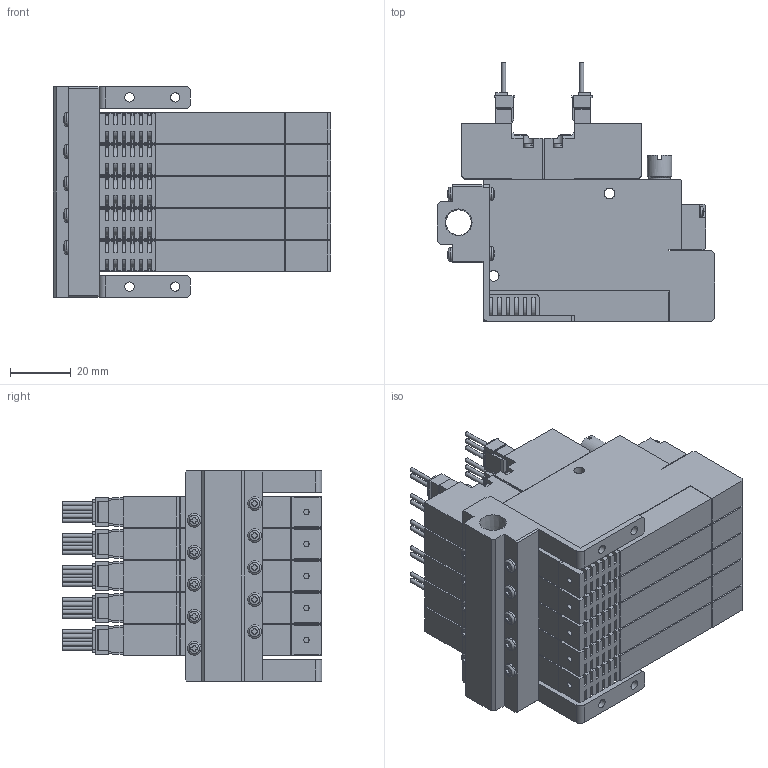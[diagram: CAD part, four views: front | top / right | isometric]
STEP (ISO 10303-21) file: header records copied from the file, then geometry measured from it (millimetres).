
FILE_DESCRIPTION(('STEP AP203'),'1');
FILE_NAME('5WS505_3D.stp','2024-09-04T22:39:20',(' '),(' '),'Spatial InterOp 3D',' ',' ');
FILE_SCHEMA(('CONFIG_CONTROL_DESIGN'));
Length unit declared in the file: millimetre
Products named in the file (5): BSC1M※※ZZ※5WS505; Solenoid valve W; Pressure Sensor ZZ; Unit-S; BaseMS50R
Assembly tree (16 placements, depth 2):
  BSC1M※※ZZ※5WS505
    Solenoid valve W  x5
    Pressure Sensor ZZ  x5
    Unit-S  x5
    BaseMS50R
Bounding box: 91 x 85.05 x 69 mm (x, y, z)
Volume: 228876.6 mm3; surface area: 95086.1 mm2
Topology: 16 solids, 16 shells, 2280 faces, 6235 edges, 4136 vertices
Faces by surface type: plane 1673, cylinder 532, cone 27, sphere 24, torus 24
Full cylindrical faces by diameter (mm): 1.4 x25, 1.8 x5, 2.5 x10, 3 x24, 3.5 x30, 4 x5, 4.134 x10, 4.5 x14, 5.5 x5, 7 x5, 7.7 x5, 8 x5, 8.422 x1
Entity records: 20964 total; most frequent: CARTESIAN_POINT 4612, DIRECTION 3268, ORIENTED_EDGE 3242, EDGE_CURVE 1621, LINE 1134, VECTOR 1134, VERTEX_POINT 1125, AXIS2_PLACEMENT_3D 1067
